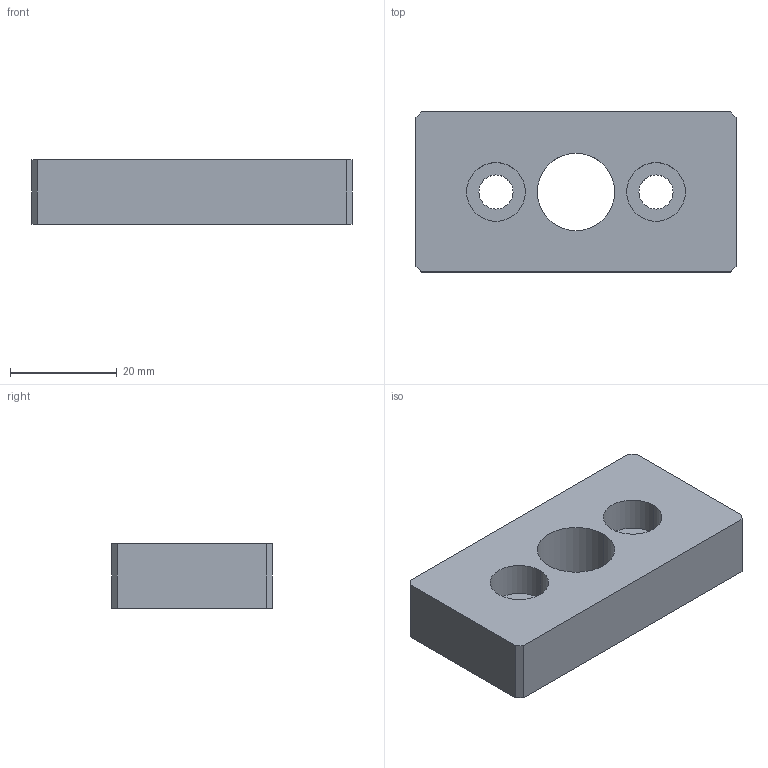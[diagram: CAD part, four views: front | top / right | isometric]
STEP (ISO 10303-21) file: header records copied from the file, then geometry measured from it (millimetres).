
FILE_DESCRIPTION (( 'STEP AP203' ), '1' );
FILE_NAME ('PF3060.STEP', '2024-02-19T03:07:25', ( '' ), ( '' ), 'SwSTEP 2.0', 'SolidWorks 2022', '' );
FILE_SCHEMA (( 'CONFIG_CONTROL_DESIGN' ));
Length unit declared in the file: millimetre
Products named in the file (1): PF3060
Bounding box: 60 x 30 x 12 mm (x, y, z)
Volume: 18017.7 mm3; surface area: 6483.1 mm2
Topology: 1 solids, 1 shells, 22 faces, 54 edges, 36 vertices
Faces by surface type: plane 12, cylinder 10
Entity records: 747 total; most frequent: DIRECTION 120, CARTESIAN_POINT 113, ORIENTED_EDGE 108, EDGE_CURVE 54, AXIS2_PLACEMENT_3D 43, VERTEX_POINT 36, LINE 34, VECTOR 34
